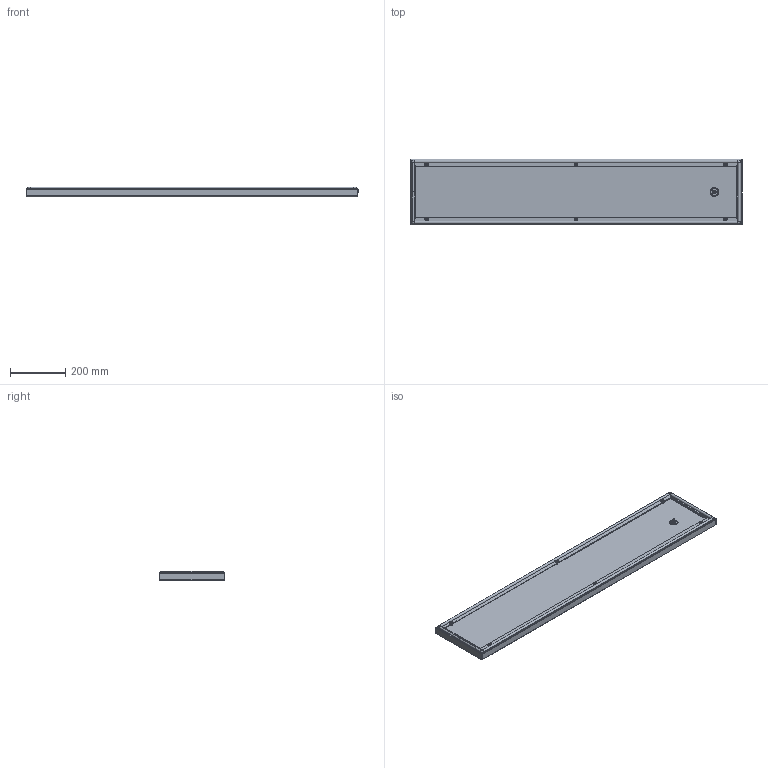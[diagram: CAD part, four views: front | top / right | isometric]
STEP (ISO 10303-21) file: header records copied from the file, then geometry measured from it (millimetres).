
FILE_DESCRIPTION (( 'STEP AP203' ), '1' );
FILE_NAME ('P 120.24-S Ïàíåëü êîíöåâàÿ ñðåäíåé ÷àñòè.STEP', '2025-10-02T13:27:28', ( '' ), ( '' ), 'SwSTEP 2.0', 'SolidWorks 2019', '' );
FILE_SCHEMA (( 'CONFIG_CONTROL_DESIGN' ));
Length unit declared in the file: millimetre
Products named in the file (5): P 120.24-S Ïàíåëü êîíöåâàÿ ñðåäíåé ÷àñòè; Äåòàëü1^P Y.24-S Ïàíåëü êîíöåâàÿ ñðåäíåé ÷àñòè_1200; Øïèëüêà çàçåìëåíèÿ Ì6õ17,5_˜¯¨«ìª  § §¥¬«¥­¨ï Œ6å17,5; Ãàéêà-çàêë¸ïêà Ì6; P Y.24-S.001 Ïàíåëü êîíöåâàÿ ñðåäíåé ÷àñòè_P 120.24-S
Assembly tree (9 placements, depth 2):
  P 120.24-S Ïàíåëü êîíöåâàÿ ñðåäíåé ÷àñòè
    P Y.24-S.001 Ïàíåëü êîíöåâàÿ ñðåäíåé ÷àñòè_P 120.24-S
    Ãàéêà-çàêë¸ïêà Ì6  x6
    Øïèëüêà çàçåìëåíèÿ Ì6õ17,5_˜¯¨«ìª  § §¥¬«¥­¨ï Œ6å17,5
    Äåòàëü1^P Y.24-S Ïàíåëü êîíöåâàÿ ñðåäíåé ÷àñòè_1200
Bounding box: 1200 x 236 x 34 mm (x, y, z)
Volume: 708353.7 mm3; surface area: 932388.8 mm2
Topology: 9 solids, 9 shells, 496 faces, 1171 edges, 715 vertices
Faces by surface type: cylinder 253, plane 115, torus 68, bspline 54, cone 6
Entity records: 11997 total; most frequent: CARTESIAN_POINT 6353, ORIENTED_EDGE 1134, DIRECTION 905, EDGE_CURVE 567, VERTEX_POINT 340, AXIS2_PLACEMENT_3D 337, EDGE_LOOP 263, FACE_OUTER_BOUND 241
